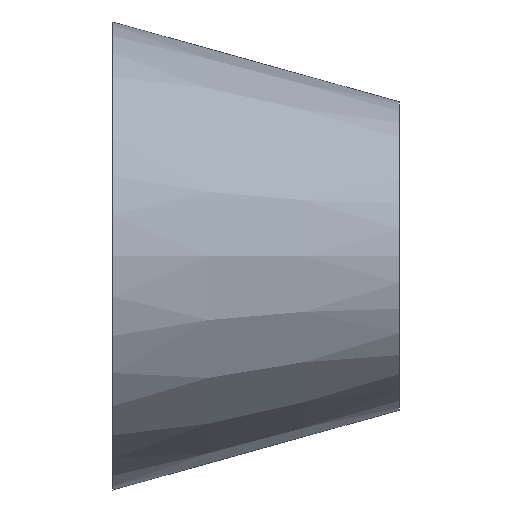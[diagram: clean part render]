
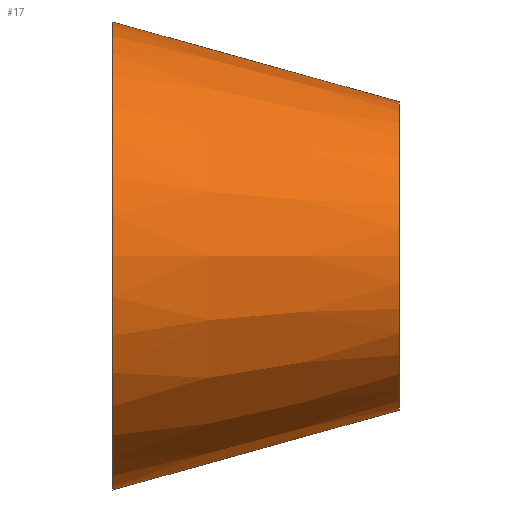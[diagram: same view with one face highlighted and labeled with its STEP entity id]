
A CAD part, front view. The second image highlights one B-rep face of the part: STEP entity #17.
In plain terms, the highlighted conical face has half-angle 15.562 degrees and reference radius 64.5 mm.
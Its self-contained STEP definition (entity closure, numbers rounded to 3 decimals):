
#17 = ADVANCED_FACE('',(#18),#31,.T.);
#18 = FACE_BOUND('',#19,.T.);
#19 = EDGE_LOOP('',(#20,#54,#74,#101));
#20 = ORIENTED_EDGE('',*,*,#21,.T.);
#21 = EDGE_CURVE('',#22,#22,#24,.T.);
#22 = VERTEX_POINT('',#23);
#23 = CARTESIAN_POINT('',(0.,64.5,0.));
#24 = SURFACE_CURVE('',#25,(#30,#42),.PCURVE_S1.);
#25 = CIRCLE('',#26,64.5);
#26 = AXIS2_PLACEMENT_3D('',#27,#28,#29);
#27 = CARTESIAN_POINT('',(0.,0.,0.));
#28 = DIRECTION('',(1.,0.,0.));
#29 = DIRECTION('',(0.,1.,0.));
#30 = PCURVE('',#31,#36);
#31 = CONICAL_SURFACE('',#32,64.5,0.272);
#32 = AXIS2_PLACEMENT_3D('',#33,#34,#35);
#33 = CARTESIAN_POINT('',(0.,0.,0.));
#34 = DIRECTION('',(-1.,-0.,-0.));
#35 = DIRECTION('',(0.,1.,0.));
#36 = DEFINITIONAL_REPRESENTATION('',(#37),#41);
#37 = LINE('',#38,#39);
#38 = CARTESIAN_POINT('',(-0.,-0.));
#39 = VECTOR('',#40,1.);
#40 = DIRECTION('',(-1.,-0.));
#41 = ( GEOMETRIC_REPRESENTATION_CONTEXT(2) 
PARAMETRIC_REPRESENTATION_CONTEXT() REPRESENTATION_CONTEXT('2D SPACE',''
  ) );
#42 = PCURVE('',#43,#48);
#43 = PLANE('',#44);
#44 = AXIS2_PLACEMENT_3D('',#45,#46,#47);
#45 = CARTESIAN_POINT('',(0.,0.,0.));
#46 = DIRECTION('',(1.,0.,0.));
#47 = DIRECTION('',(0.,1.,0.));
#48 = DEFINITIONAL_REPRESENTATION('',(#49),#53);
#49 = CIRCLE('',#50,64.5);
#50 = AXIS2_PLACEMENT_2D('',#51,#52);
#51 = CARTESIAN_POINT('',(0.,0.));
#52 = DIRECTION('',(1.,0.));
#53 = ( GEOMETRIC_REPRESENTATION_CONTEXT(2) 
PARAMETRIC_REPRESENTATION_CONTEXT() REPRESENTATION_CONTEXT('2D SPACE',''
  ) );
#54 = ORIENTED_EDGE('',*,*,#55,.T.);
#55 = EDGE_CURVE('',#22,#56,#58,.T.);
#56 = VERTEX_POINT('',#57);
#57 = CARTESIAN_POINT('',(79.,42.5,0.));
#58 = SEAM_CURVE('',#59,(#62,#68),.PCURVE_S1.);
#59 = B_SPLINE_CURVE_WITH_KNOTS('',1,(#60,#61),.UNSPECIFIED.,.F.,.F.,(2,
    2),(0.,1.),.PIECEWISE_BEZIER_KNOTS.);
#60 = CARTESIAN_POINT('',(0.,64.5,0.));
#61 = CARTESIAN_POINT('',(79.,42.5,0.));
#62 = PCURVE('',#31,#63);
#63 = DEFINITIONAL_REPRESENTATION('',(#64),#67);
#64 = B_SPLINE_CURVE_WITH_KNOTS('',1,(#65,#66),.UNSPECIFIED.,.F.,.F.,(2,
    2),(0.,1.),.PIECEWISE_BEZIER_KNOTS.);
#65 = CARTESIAN_POINT('',(-6.283,0.));
#66 = CARTESIAN_POINT('',(-6.283,-79.));
#67 = ( GEOMETRIC_REPRESENTATION_CONTEXT(2) 
PARAMETRIC_REPRESENTATION_CONTEXT() REPRESENTATION_CONTEXT('2D SPACE',''
  ) );
#68 = PCURVE('',#31,#69);
#69 = DEFINITIONAL_REPRESENTATION('',(#70),#73);
#70 = B_SPLINE_CURVE_WITH_KNOTS('',1,(#71,#72),.UNSPECIFIED.,.F.,.F.,(2,
    2),(0.,1.),.PIECEWISE_BEZIER_KNOTS.);
#71 = CARTESIAN_POINT('',(0.,0.));
#72 = CARTESIAN_POINT('',(0.,-79.));
#73 = ( GEOMETRIC_REPRESENTATION_CONTEXT(2) 
PARAMETRIC_REPRESENTATION_CONTEXT() REPRESENTATION_CONTEXT('2D SPACE',''
  ) );
#74 = ORIENTED_EDGE('',*,*,#75,.F.);
#75 = EDGE_CURVE('',#56,#56,#76,.T.);
#76 = SURFACE_CURVE('',#77,(#82,#89),.PCURVE_S1.);
#77 = CIRCLE('',#78,42.5);
#78 = AXIS2_PLACEMENT_3D('',#79,#80,#81);
#79 = CARTESIAN_POINT('',(79.,0.,0.));
#80 = DIRECTION('',(1.,0.,0.));
#81 = DIRECTION('',(0.,1.,0.));
#82 = PCURVE('',#31,#83);
#83 = DEFINITIONAL_REPRESENTATION('',(#84),#88);
#84 = LINE('',#85,#86);
#85 = CARTESIAN_POINT('',(-0.,-79.));
#86 = VECTOR('',#87,1.);
#87 = DIRECTION('',(-1.,-0.));
#88 = ( GEOMETRIC_REPRESENTATION_CONTEXT(2) 
PARAMETRIC_REPRESENTATION_CONTEXT() REPRESENTATION_CONTEXT('2D SPACE',''
  ) );
#89 = PCURVE('',#90,#95);
#90 = PLANE('',#91);
#91 = AXIS2_PLACEMENT_3D('',#92,#93,#94);
#92 = CARTESIAN_POINT('',(79.,0.,0.));
#93 = DIRECTION('',(1.,0.,0.));
#94 = DIRECTION('',(0.,1.,0.));
#95 = DEFINITIONAL_REPRESENTATION('',(#96),#100);
#96 = CIRCLE('',#97,42.5);
#97 = AXIS2_PLACEMENT_2D('',#98,#99);
#98 = CARTESIAN_POINT('',(0.,0.));
#99 = DIRECTION('',(1.,0.));
#100 = ( GEOMETRIC_REPRESENTATION_CONTEXT(2) 
PARAMETRIC_REPRESENTATION_CONTEXT() REPRESENTATION_CONTEXT('2D SPACE',''
  ) );
#101 = ORIENTED_EDGE('',*,*,#55,.F.);
